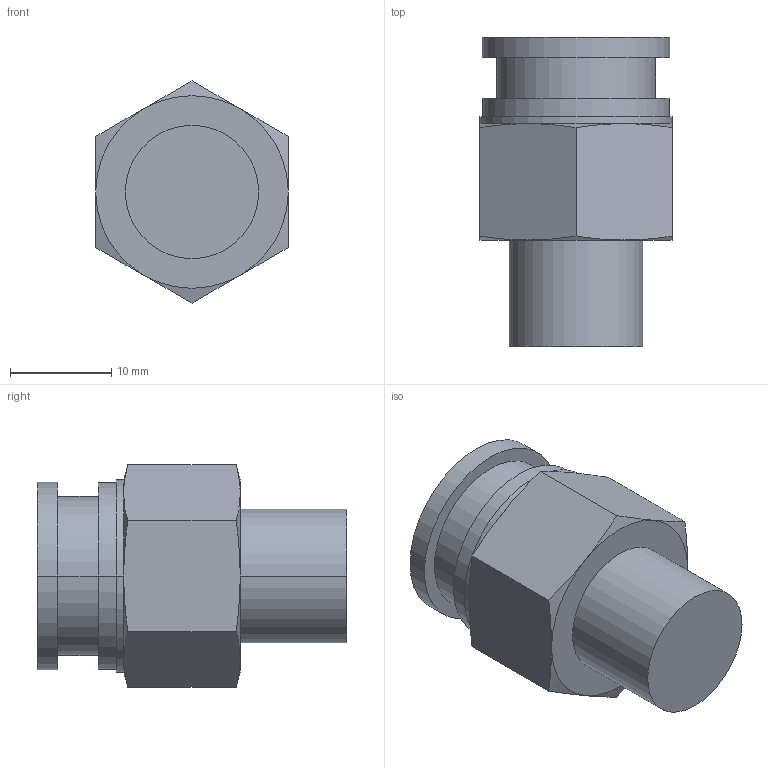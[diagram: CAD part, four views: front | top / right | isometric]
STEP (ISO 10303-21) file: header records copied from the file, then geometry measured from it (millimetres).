
FILE_DESCRIPTION( ( '' ), '1' );
FILE_NAME( 'G:/SMC狟婥/KQB2H12-02S.stp', '2023-03-07T02:28:24', ( '' ), ( '' ), ' ', ' ', ' ' );
FILE_SCHEMA( ( 'CONFIG_CONTROL_DESIGN' ) );
Length unit declared in the file: millimetre
Products named in the file (1): 1
Bounding box: 19 x 30.5 x 21.94 mm (x, y, z)
Volume: 4900.8 mm3; surface area: 3111.3 mm2
Topology: 1 solids, 1 shells, 37 faces, 76 edges, 46 vertices
Faces by surface type: plane 13, cylinder 12, cone 12
Entity records: 992 total; most frequent: CARTESIAN_POINT 208, DIRECTION 162, ORIENTED_EDGE 152, EDGE_CURVE 76, AXIS2_PLACEMENT_3D 72, VERTEX_POINT 46, EDGE_LOOP 42, ADVANCED_FACE 37
